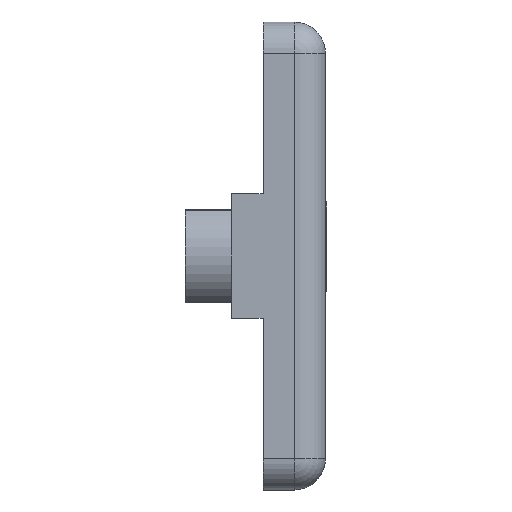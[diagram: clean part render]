
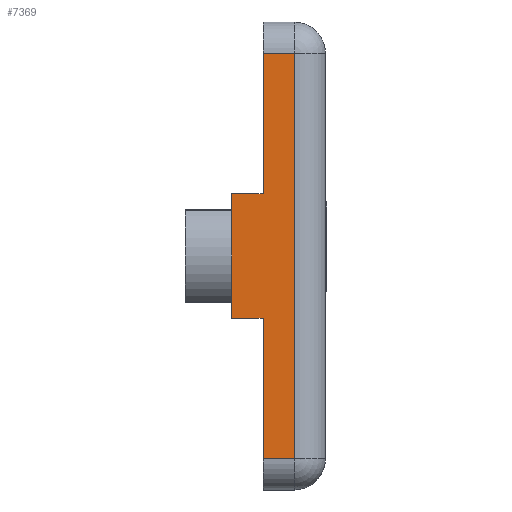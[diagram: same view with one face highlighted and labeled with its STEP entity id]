
A CAD part, left-side view. The second image highlights one B-rep face of the part: STEP entity #7369.
In plain terms, the highlighted planar face has unit normal (-1, 0, 0).
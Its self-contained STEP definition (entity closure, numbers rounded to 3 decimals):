
#3 = VECTOR ( 'NONE', #2823, 1000. ) ;
#27 = VECTOR ( 'NONE', #8194, 1000. ) ;
#124 = CARTESIAN_POINT ( 'NONE',  ( -30., 4., -13. ) ) ;
#392 = DIRECTION ( 'NONE',  ( 0., 0., -1. ) ) ;
#403 = CARTESIAN_POINT ( 'NONE',  ( -30., 4., -13. ) ) ;
#469 = EDGE_LOOP ( 'NONE', ( #4702, #1917, #5349, #4403, #4780, #4934, #6953, #5588 ) ) ;
#619 = VECTOR ( 'NONE', #5002, 1000. ) ;
#723 = VECTOR ( 'NONE', #1491, 1000. ) ;
#725 = CARTESIAN_POINT ( 'NONE',  ( -30., 6., -4. ) ) ;
#824 = CARTESIAN_POINT ( 'NONE',  ( -30., 4., -13. ) ) ;
#1058 = VERTEX_POINT ( 'NONE', #2761 ) ;
#1258 = CARTESIAN_POINT ( 'NONE',  ( -30., 4., -13. ) ) ;
#1406 = EDGE_CURVE ( 'NONE', #7165, #8013, #5245, .T. ) ;
#1491 = DIRECTION ( 'NONE',  ( 0., 0., 1. ) ) ;
#1586 = VECTOR ( 'NONE', #7550, 1000. ) ;
#1676 = CARTESIAN_POINT ( 'NONE',  ( -30., 4., 4. ) ) ;
#1783 = LINE ( 'NONE', #8109, #27 ) ;
#1917 = ORIENTED_EDGE ( 'NONE', *, *, #3664, .T. ) ;
#1947 = DIRECTION ( 'NONE',  ( 0., 0., 1. ) ) ;
#2242 = FACE_OUTER_BOUND ( 'NONE', #469, .T. ) ;
#2323 = VECTOR ( 'NONE', #1947, 1000. ) ;
#2526 = LINE ( 'NONE', #1258, #2323 ) ;
#2559 = CARTESIAN_POINT ( 'NONE',  ( -30., 2., -13. ) ) ;
#2617 = LINE ( 'NONE', #4371, #619 ) ;
#2684 = CARTESIAN_POINT ( 'NONE',  ( -30., 6., -4. ) ) ;
#2710 = AXIS2_PLACEMENT_3D ( 'NONE', #5604, #4358, #392 ) ;
#2761 = CARTESIAN_POINT ( 'NONE',  ( -30., 4., -4. ) ) ;
#2818 = CARTESIAN_POINT ( 'NONE',  ( -30., 4., 13. ) ) ;
#2823 = DIRECTION ( 'NONE',  ( 0., -1., 0. ) ) ;
#2918 = LINE ( 'NONE', #824, #723 ) ;
#3035 = EDGE_CURVE ( 'NONE', #6173, #4130, #3378, .T. ) ;
#3218 = VERTEX_POINT ( 'NONE', #1676 ) ;
#3378 = LINE ( 'NONE', #2684, #1586 ) ;
#3549 = CARTESIAN_POINT ( 'NONE',  ( -30., 4., 13. ) ) ;
#3664 = EDGE_CURVE ( 'NONE', #6489, #8013, #1783, .T. ) ;
#4130 = VERTEX_POINT ( 'NONE', #7398 ) ;
#4174 = LINE ( 'NONE', #403, #5649 ) ;
#4286 = EDGE_CURVE ( 'NONE', #5238, #1058, #2918, .T. ) ;
#4358 = DIRECTION ( 'NONE',  ( 1., 0., 0. ) ) ;
#4371 = CARTESIAN_POINT ( 'NONE',  ( -30., 6., 4. ) ) ;
#4403 = ORIENTED_EDGE ( 'NONE', *, *, #8345, .F. ) ;
#4488 = EDGE_CURVE ( 'NONE', #4130, #3218, #2617, .T. ) ;
#4506 = EDGE_CURVE ( 'NONE', #5238, #6489, #4174, .T. ) ;
#4702 = ORIENTED_EDGE ( 'NONE', *, *, #4506, .T. ) ;
#4780 = ORIENTED_EDGE ( 'NONE', *, *, #4488, .F. ) ;
#4811 = DIRECTION ( 'NONE',  ( 0., -1., 0. ) ) ;
#4934 = ORIENTED_EDGE ( 'NONE', *, *, #3035, .F. ) ;
#5002 = DIRECTION ( 'NONE',  ( 0., -1., 0. ) ) ;
#5238 = VERTEX_POINT ( 'NONE', #124 ) ;
#5245 = LINE ( 'NONE', #2818, #3 ) ;
#5349 = ORIENTED_EDGE ( 'NONE', *, *, #1406, .F. ) ;
#5588 = ORIENTED_EDGE ( 'NONE', *, *, #4286, .F. ) ;
#5604 = CARTESIAN_POINT ( 'NONE',  ( -30., 4., -13. ) ) ;
#5649 = VECTOR ( 'NONE', #8130, 1000. ) ;
#5680 = VECTOR ( 'NONE', #4811, 1000. ) ;
#6173 = VERTEX_POINT ( 'NONE', #725 ) ;
#6489 = VERTEX_POINT ( 'NONE', #2559 ) ;
#6709 = CARTESIAN_POINT ( 'NONE',  ( -30., 6., -4. ) ) ;
#6953 = ORIENTED_EDGE ( 'NONE', *, *, #7691, .T. ) ;
#7165 = VERTEX_POINT ( 'NONE', #3549 ) ;
#7243 = CARTESIAN_POINT ( 'NONE',  ( -30., 2., 13. ) ) ;
#7369 = ADVANCED_FACE ( 'NONE', ( #2242 ), #8173, .F. ) ;
#7379 = LINE ( 'NONE', #6709, #5680 ) ;
#7398 = CARTESIAN_POINT ( 'NONE',  ( -30., 6., 4. ) ) ;
#7550 = DIRECTION ( 'NONE',  ( 0., 0., 1. ) ) ;
#7691 = EDGE_CURVE ( 'NONE', #6173, #1058, #7379, .T. ) ;
#8013 = VERTEX_POINT ( 'NONE', #7243 ) ;
#8109 = CARTESIAN_POINT ( 'NONE',  ( -30., 2., -13. ) ) ;
#8130 = DIRECTION ( 'NONE',  ( 0., -1., 0. ) ) ;
#8173 = PLANE ( 'NONE',  #2710 ) ;
#8194 = DIRECTION ( 'NONE',  ( 0., 0., 1. ) ) ;
#8345 = EDGE_CURVE ( 'NONE', #3218, #7165, #2526, .T. ) ;
